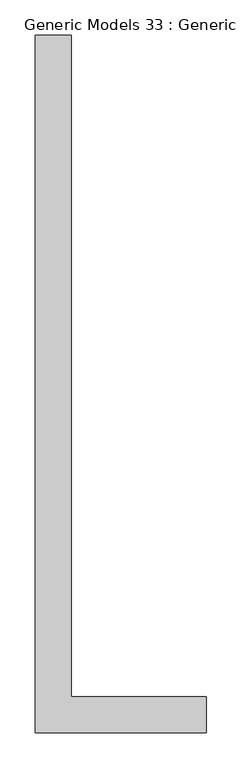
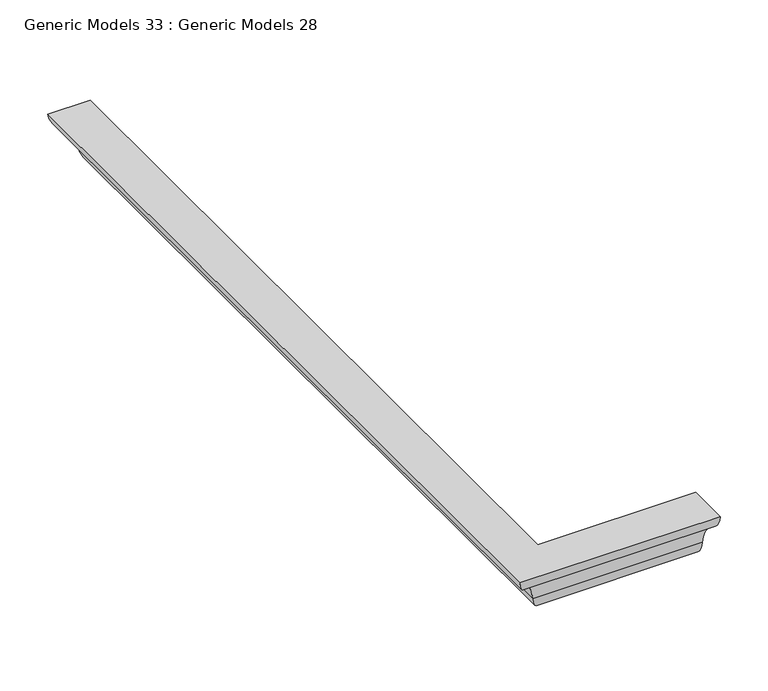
"""IFC4 building model written with IfcOpenShell, lengths in millimetres: proxy geometry, Generic Models 33 : Generic Models 28."""

from ifc_helpers import new_model, si_unit, frame, origin, place, context, project, spatial, polyline, circle_curve, ellipse_curve, source, transform, mapped, element, save
from ifc_brep_helpers import plane_surface, cylinder_surface, revolved_surface, advanced_brep


def generic_models_33_generic_models_28_1d8a5abb(model_context):
    return source(origin(), model_context, "Body", "AdvancedBrep", [
        advanced_brep(
        [(3632.2, 5918.0947939, 5638.8), (3618.110615, 5918.0947939, 5659.9340775), (3595.489385, 5918.0947939, 5693.8659225), (3581.4, 5918.0947939, 5715.0), (3632.2, 5918.0947939, 5715.0), (3632.2, 4984.6447939, 5638.8), (3618.110615, 4970.5554089, 5659.9340775), (3595.489385, 4947.9341788, 5693.8659225), (3581.4, 4933.8447939, 5715.0), (3632.2, 4984.6447939, 5715.0), (3822.7, 4984.6447939, 5638.8), (3822.7, 4984.6447939, 5715.0), (3822.7, 4933.8447939, 5715.0), (3822.7, 4947.9341788, 5693.8659225), (3822.7, 4970.5554089, 5659.9340775)],
        [
            (0, 1, circle_curve(frame((3646.1789399, 5918.0947939, 5663.3827937), z_axis=(0.0, 1.0, 0.0), x_axis=(1.0, 0.0, 0.0)), 28.2794007)),
            (1, 2, circle_curve(frame((3573.0454802, 5918.0947939, 5654.3969868), z_axis=(0.0, -1.0, 0.0), x_axis=(1.0, 0.0, 0.0)), 45.4040279)),
            (2, 3, circle_curve(frame((3609.4683249, 5918.0947939, 5718.4487162), z_axis=(0.0, 1.0, 0.0), x_axis=(1.0, 0.0, 0.0)), 28.2794007)),
            (3, 4),
            (4, 0),
            (0, 5),
            (5, 6, ellipse_curve(frame((3646.1789399, 4998.6237337, 5663.3827937), z_axis=(-0.7071067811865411, 0.7071067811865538, 0.0), x_axis=(0.7071067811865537, 0.7071067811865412, 0.0)), 39.993112, 28.2794007)),
            (6, 1),
            (6, 7, ellipse_curve(frame((3573.0454802, 4925.4902741, 5654.3969868), z_axis=(0.7071067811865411, -0.7071067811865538, 0.0), x_axis=(-0.7071067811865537, -0.7071067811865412, 0.0)), 64.210992, 45.4040279)),
            (7, 2),
            (7, 8, ellipse_curve(frame((3609.4683249, 4961.9131187, 5718.4487162), z_axis=(-0.7071067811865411, 0.7071067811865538, 0.0), x_axis=(0.7071067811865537, 0.7071067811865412, 0.0)), 39.993112, 28.2794007)),
            (8, 3),
            (4, 9),
            (9, 5),
            (10, 11),
            (11, 12),
            (12, 13, circle_curve(frame((3822.7, 4961.9131187, 5718.4487162), z_axis=(1.0, 0.0, 0.0), x_axis=(0.0, 1.0, 0.0)), 28.2794007)),
            (13, 14, circle_curve(frame((3822.7, 4925.4902741, 5654.3969868), z_axis=(-1.0, 0.0, 0.0), x_axis=(0.0, 1.0, 0.0)), 45.4040279)),
            (14, 10, circle_curve(frame((3822.7, 4998.6237337, 5663.3827937), z_axis=(1.0, 0.0, 0.0), x_axis=(0.0, 1.0, 0.0)), 28.2794007)),
            (5, 10),
            (14, 6),
            (13, 7),
            (12, 8),
            (9, 11),
        ],
        [
            plane_surface(frame((3632.2, 5918.0947939, 5638.8), z_axis=(0.0, 1.0, 0.0), x_axis=(0.0, 0.0, 1.0))),
            cylinder_surface(frame((3646.1789399, 5918.0947939, 5663.3827937), z_axis=(0.0, 1.0, 0.0), x_axis=(1.0, 0.0, 0.0)), 28.2794007),
            revolved_surface(polyline([(3618.4495081, 4880.086246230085, 5654.3969868), (3618.4495081, 5918.0947939, 5654.3969868)]), (3573.0454802, 5918.0947939, 5654.3969868), (0.0, -1.0, 0.0)),
            cylinder_surface(frame((3609.4683249, 5918.0947939, 5718.4487162), z_axis=(0.0, 1.0, 0.0), x_axis=(1.0, 0.0, 0.0)), 28.2794007),
            plane_surface(frame((3632.2, 5918.0947939, 5715.0), z_axis=(1.0, 0.0, 0.0), x_axis=(0.0, -1.0, 0.0))),
            plane_surface(frame((3822.7, 4984.6447939, 5638.8), z_axis=(1.0, 0.0, 0.0), x_axis=(0.0, 0.0, 1.0))),
            cylinder_surface(frame((3632.2, 4998.6237337, 5663.3827937), z_axis=(-1.0, 0.0, 0.0), x_axis=(0.0, 1.0, 0.0)), 28.2794007),
            revolved_surface(polyline([(3822.7, 4970.894302, 5654.3969868), (3527.6414523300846, 4970.894302, 5654.3969868)]), (3632.2, 4925.4902741, 5654.3969868), (1.0, 0.0, 0.0)),
            cylinder_surface(frame((3632.2, 4961.9131187, 5718.4487162), z_axis=(-1.0, 0.0, 0.0), x_axis=(0.0, 1.0, 0.0)), 28.2794007),
            plane_surface(frame((3632.2, 4984.6447939, 5715.0), z_axis=(0.0, 1.0, 0.0), x_axis=(1.0, 0.0, 0.0))),
            plane_surface(frame((3581.4, 5918.0947939, 5715.0), z_axis=(0.0, 0.0, 1.0), x_axis=(0.0, -1.0, 0.0))),
        ],
        [
            (0, [[1, 2, 3, 4, 5]]),
            (1, [[-1, 6, 7, 8]]),
            (2, [[-2, -8, 9, 10]]),
            (3, [[-3, -10, 11, 12]]),
            (4, [[-5, 13, 14, -6]]),
            (5, [[15, 16, 17, 18, 19]]),
            (6, [[-7, 20, -19, 21]]),
            (7, [[-9, -21, -18, 22]]),
            (8, [[-11, -22, -17, 23]]),
            (9, [[-14, 24, -15, -20]]),
            (10, [[-4, -12, -23, -16, -24, -13]]),
        ],
    ),
    ])


if __name__ == "__main__":
    model = new_model("IFC4")
    model_context = context("Model", 3, world=origin())
    ifc_project = project(units=[si_unit("LENGTHUNIT", "METRE", prefix="MILLI")], contexts=[model_context])
    site = spatial("IfcSite", under=ifc_project)
    building = spatial("IfcBuilding", under=site)
    placement = place(None, origin())
    generic_models_33_generic_models_28_shape = generic_models_33_generic_models_28_1d8a5abb(model_context)
    element("IfcBuildingElementProxy", 1, Name="Generic Models 33 : Generic Models 28", ObjectType="Generic Models 33 : Generic Models 28", at=placement, inside=building, context=model_context, shape_type="MappedRepresentation", body=[
        mapped(generic_models_33_generic_models_28_shape, transform((0.0, 0.0, 0.0), x_axis=(1.0, 0.0, 0.0), y_axis=(0.0, 1.0, 0.0), z_axis=(0.0, 0.0, 1.0))),
    ])
    save(model, "model.ifc")
